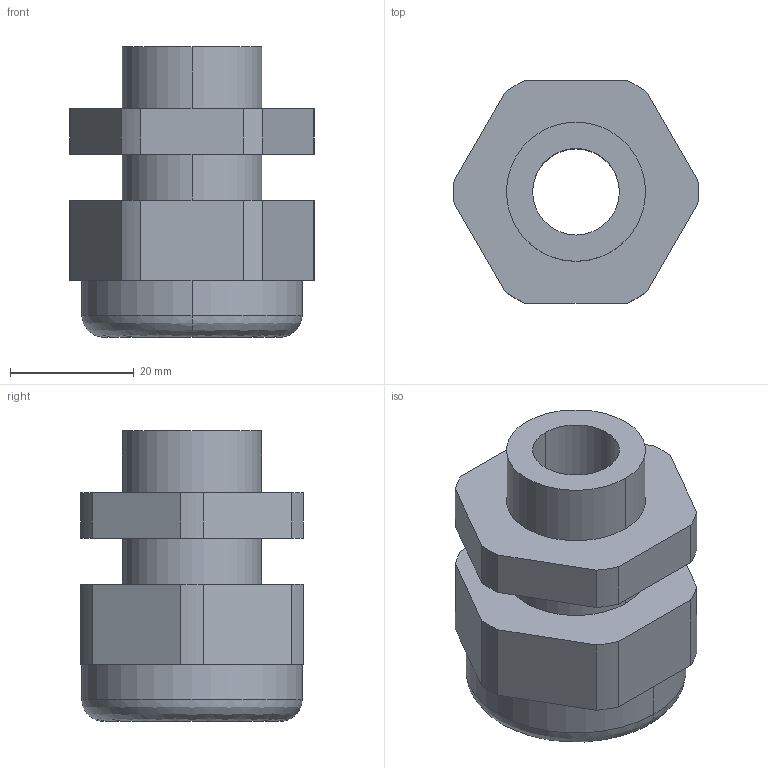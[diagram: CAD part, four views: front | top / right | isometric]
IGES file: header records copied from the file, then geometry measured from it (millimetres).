
Start section:  PTC IGES file: U:\ds\zip\sf\m32.igs
Global section: file name: U:\ds\zip\sf\m32.igs; native system: Pro/ENGINEER by Parametric Technology Corporation; preprocessor: 2003450; author: ds; organization: Unknown; date: 040803.082040; units: millimetre
Bounding box: 39.58 x 36 x 47 mm (x, y, z)
Surface area: 9968 mm2 (no closed solid volume)
Topology: 0 solids, 0 shells, 40 faces, 200 edges, 200 vertices
Faces by surface type: revolution 22, bspline 18
